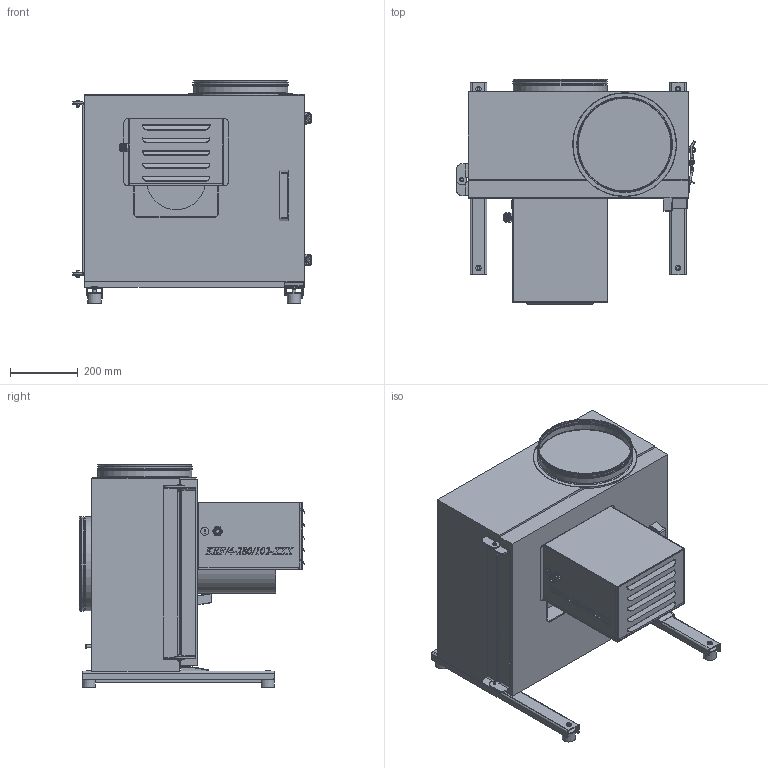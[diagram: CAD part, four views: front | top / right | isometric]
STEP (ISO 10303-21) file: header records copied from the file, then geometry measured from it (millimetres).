
FILE_DESCRIPTION(/* description */ (''),/* implementation_level */ '2;1');
FILE_NAME(/* name */ 'E:\Mariusz\Modele uproszczone\KEF\KEF 280\KEF_4_280_102_XXX 425013065\KEF_4_280_102_XXX 425013065.stp',/* time_stamp */ '2019-07-24T15:21:00+02:00',/* author */ ('M.Janczarek'),/* organization */ (''),/* preprocessor_version */ 'ST-DEVELOPER v16.13',/* originating_system */ 'Autodesk Inventor 2018',/* authorisation */ '');
FILE_SCHEMA (('AUTOMOTIVE_DESIGN { 1 0 10303 214 3 1 1 }'));
Products named in the file (1): KEF_4_280_102_XXX 425013065
Bounding box: 708 x 669.33 x 660.07 mm (x, y, z)
Volume: 121419026.2 mm3; surface area: 2800766 mm2
Topology: 2 solids, 2 shells, 3396 faces, 9360 edges, 6097 vertices
Faces by surface type: plane 2189, bspline 623, cylinder 378, cone 124, torus 78, sphere 4
Full cylindrical faces by diameter (mm): 3 x8, 5 x2, 5.2 x4, 6 x12, 7 x3, 8 x4, 8.6 x4, 9 x1, 9.5 x2, 10 x4, 10.9 x4, 12 x2, 13 x1, 13.5 x1, 15 x2, 16 x7, 20 x4, 21 x1, 23 x1, 24 x1, 40.4 x4, 176 x1, 274.072 x2, 277.8 x2, 277.948 x4, 278.047 x2, 279 x2, 282.272 x4, 306 x1, 307.8 x1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
Entity records: 116278 total; most frequent: CARTESIAN_POINT 31616, ORIENTED_EDGE 18238, DIRECTION 14874, EDGE_CURVE 9119, LINE 6056, VECTOR 6056, VERTEX_POINT 6038, AXIS2_PLACEMENT_3D 4409
